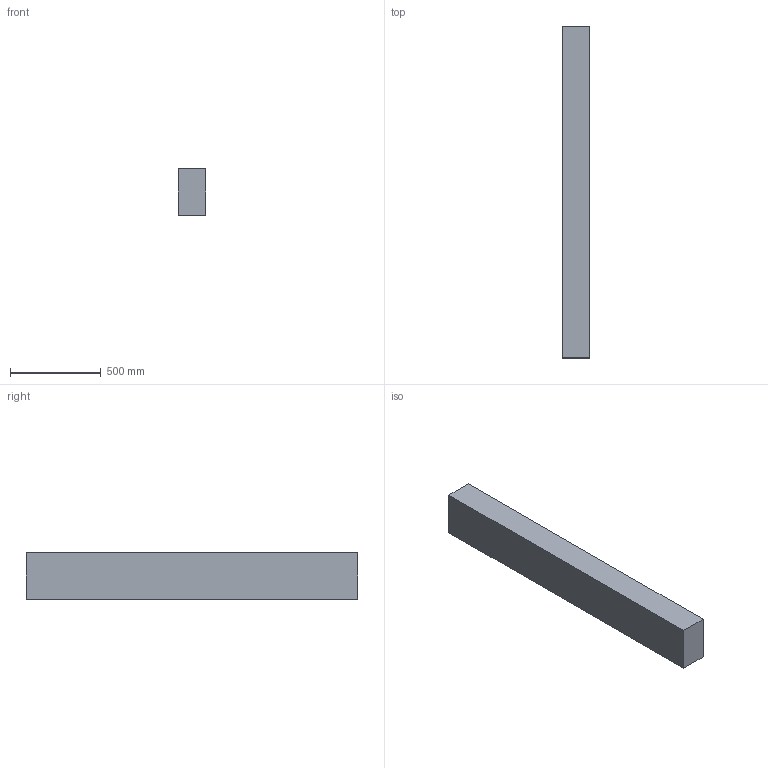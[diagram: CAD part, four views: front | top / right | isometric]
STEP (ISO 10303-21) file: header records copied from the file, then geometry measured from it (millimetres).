
FILE_DESCRIPTION(/* description */ (''),/* implementation_level */ '2;1');
FILE_NAME(/* name */ '6x10x72',/* time_stamp */ '2024-09-20T11:47:15-05:00',/* author */ (''),/* organization */ (''),/* preprocessor_version */ 'ST-DEVELOPER v19.2',/* originating_system */ 'Rhino 8.5',/* authorisation */ '');
FILE_SCHEMA (('CONFIG_CONTROL_DESIGN'));
Length unit declared in the file: inch
Products named in the file (1): Document
Bounding box: 152.4 x 1828.8 x 254 mm (x, y, z)
Volume: 70792116.5 mm3; surface area: 1563867.8 mm2
Topology: 1 solids, 1 shells, 6 faces, 12 edges, 8 vertices
Faces by surface type: plane 6
Entity records: 226 total; most frequent: CARTESIAN_POINT 40, ORIENTED_EDGE 24, EDGE_CURVE 12, B_SPLINE_CURVE_WITH_KNOTS 12, DIRECTION 10, VERTEX_POINT 8, AXIS2_PLACEMENT_3D 8, ORGANIZATION 7
